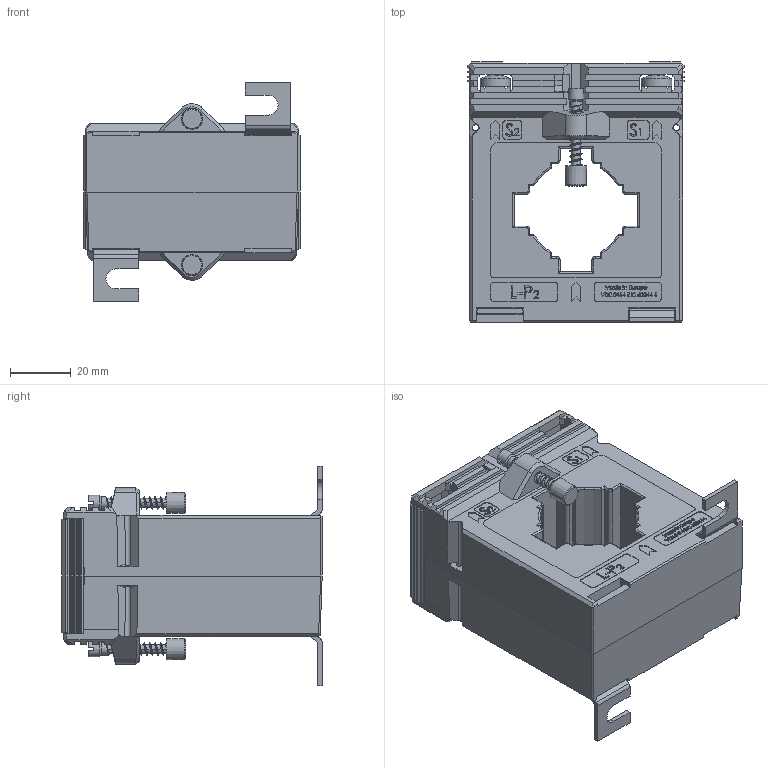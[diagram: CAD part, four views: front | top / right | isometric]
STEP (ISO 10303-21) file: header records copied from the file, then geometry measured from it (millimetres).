
FILE_DESCRIPTION(/* description */ (''),/* implementation_level */ '2;1');
FILE_NAME(/* name */ 'ASK41.4.stp',/* time_stamp */ '2024-03-04T12:31:56+01:00',/* author */ ('JDI'),/* organization */ (''),/* preprocessor_version */ 'ST-DEVELOPER v19.2',/* originating_system */ 'Autodesk Inventor 2023',/* authorisation */ '');
FILE_SCHEMA (('AUTOMOTIVE_DESIGN { 1 0 10303 214 3 1 1 }'));
Products named in the file (1): ASK41_4
Bounding box: 71 x 85.5 x 72 mm (x, y, z)
Volume: 184249.2 mm3; surface area: 42822.1 mm2
Topology: 1 solids, 1 shells, 1907 faces, 5037 edges, 3232 vertices
Faces by surface type: plane 1308, bspline 334, cylinder 206, cone 39, torus 12, sphere 8
Full cylindrical faces by diameter (mm): 2.95 x2, 3 x26, 3.8 x4, 4 x18, 4.1 x2, 5 x2, 10 x4
Entity records: 82279 total; most frequent: CARTESIAN_POINT 35543, ORIENTED_EDGE 10074, DIRECTION 7843, EDGE_CURVE 5037, LINE 3743, VECTOR 3743, VERTEX_POINT 3232, EDGE_LOOP 2073
